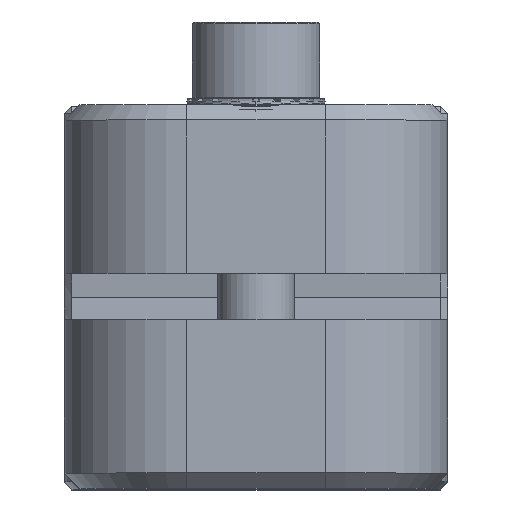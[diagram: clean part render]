
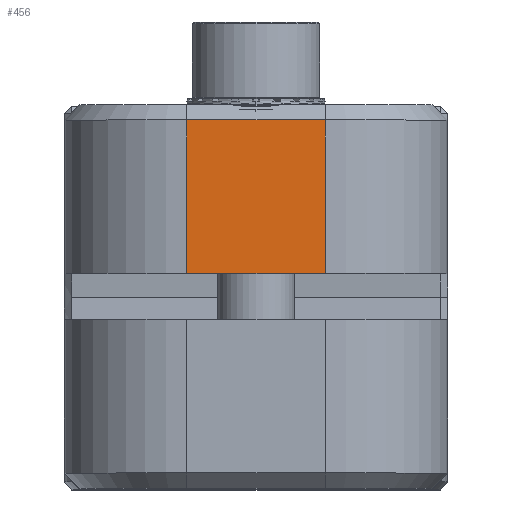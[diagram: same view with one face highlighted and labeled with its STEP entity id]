
A CAD part, top view. The second image highlights one B-rep face of the part: STEP entity #456.
In plain terms, the highlighted planar face has unit normal (0, 0, 1) as drawn and (1, 0, 0) by its records, which use the part's own axes.
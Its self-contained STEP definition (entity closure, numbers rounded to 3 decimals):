
#456 = ADVANCED_FACE ( 'NONE', ( #9647 ), #10643, .T. ) ;
#900 = ORIENTED_EDGE ( 'NONE', *, *, #4788, .T. ) ;
#1643 = ORIENTED_EDGE ( 'NONE', *, *, #1806, .T. ) ;
#1797 = LINE ( 'NONE', #5210, #2285 ) ;
#1806 = EDGE_CURVE ( 'NONE', #5599, #8778, #1797, .T. ) ;
#1807 = LINE ( 'NONE', #4383, #3467 ) ;
#1883 = CARTESIAN_POINT ( 'NONE',  ( 21.824, 32.973, -4.5 ) ) ;
#2250 = CARTESIAN_POINT ( 'NONE',  ( 21.824, 32.973, 0. ) ) ;
#2285 = VECTOR ( 'NONE', #8637, 1000. ) ;
#2763 = DIRECTION ( 'NONE',  ( 0., 0., -1. ) ) ;
#3295 = CARTESIAN_POINT ( 'NONE',  ( 21.824, 32.973, 4.5 ) ) ;
#3467 = VECTOR ( 'NONE', #7977, 1000. ) ;
#3764 = LINE ( 'NONE', #10434, #4940 ) ;
#3821 = LINE ( 'NONE', #2250, #10991 ) ;
#4383 = CARTESIAN_POINT ( 'NONE',  ( 21.824, 27.973, 4.5 ) ) ;
#4725 = VERTEX_POINT ( 'NONE', #9678 ) ;
#4788 = EDGE_CURVE ( 'NONE', #10069, #4725, #1807, .T. ) ;
#4812 = DIRECTION ( 'NONE',  ( 0., 1., 0. ) ) ;
#4940 = VECTOR ( 'NONE', #2763, 1000. ) ;
#5210 = CARTESIAN_POINT ( 'NONE',  ( 21.824, 27.973, -4.5 ) ) ;
#5339 = ORIENTED_EDGE ( 'NONE', *, *, #6430, .T. ) ;
#5554 = EDGE_LOOP ( 'NONE', ( #900, #5339, #1643, #5837 ) ) ;
#5599 = VERTEX_POINT ( 'NONE', #6470 ) ;
#5837 = ORIENTED_EDGE ( 'NONE', *, *, #9376, .T. ) ;
#6430 = EDGE_CURVE ( 'NONE', #4725, #5599, #3764, .T. ) ;
#6470 = CARTESIAN_POINT ( 'NONE',  ( 21.824, 22.973, -4.5 ) ) ;
#7030 = DIRECTION ( 'NONE',  ( 1., 0., 0. ) ) ;
#7866 = CARTESIAN_POINT ( 'NONE',  ( 21.824, 22.973, -4.5 ) ) ;
#7977 = DIRECTION ( 'NONE',  ( 0., -1., 0. ) ) ;
#8637 = DIRECTION ( 'NONE',  ( 0., 1., 0. ) ) ;
#8778 = VERTEX_POINT ( 'NONE', #1883 ) ;
#8925 = DIRECTION ( 'NONE',  ( 0., 0., 1. ) ) ;
#9376 = EDGE_CURVE ( 'NONE', #8778, #10069, #3821, .T. ) ;
#9647 = FACE_OUTER_BOUND ( 'NONE', #5554, .T. ) ;
#9678 = CARTESIAN_POINT ( 'NONE',  ( 21.824, 22.973, 4.5 ) ) ;
#10069 = VERTEX_POINT ( 'NONE', #3295 ) ;
#10308 = AXIS2_PLACEMENT_3D ( 'NONE', #7866, #7030, #4812 ) ;
#10434 = CARTESIAN_POINT ( 'NONE',  ( 21.824, 22.973, 0. ) ) ;
#10643 = PLANE ( 'NONE',  #10308 ) ;
#10991 = VECTOR ( 'NONE', #8925, 1000. ) ;
